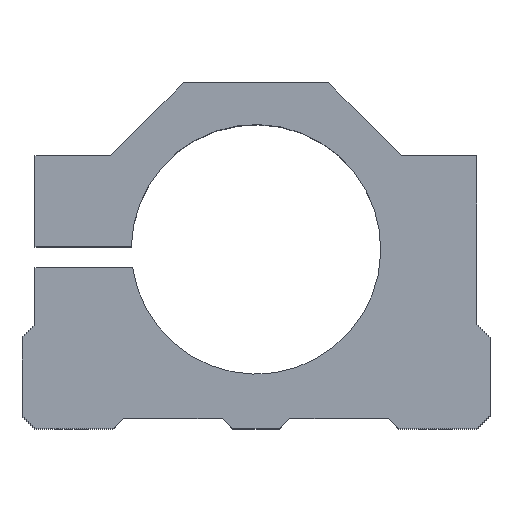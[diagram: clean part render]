
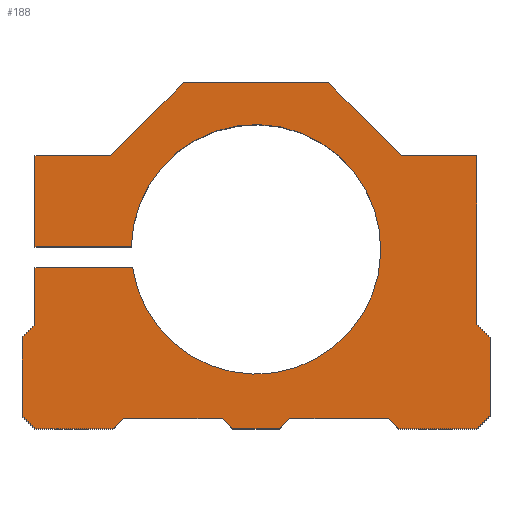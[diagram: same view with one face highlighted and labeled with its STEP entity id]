
A CAD part, top view. The second image highlights one B-rep face of the part: STEP entity #188.
In plain terms, the highlighted planar face has unit normal (0, 0, 1).
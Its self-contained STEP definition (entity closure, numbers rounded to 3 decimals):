
#188=ADVANCED_FACE('',(#572),#574,.T.);
#572=FACE_BOUND('',#573,.T.);
#573=EDGE_LOOP('',(#859,#860,#861,#862,#863,#864,#865,#866,#867,#868,#869,#870,#871,
#872,#873,#874,#875,#876,#877,#878,#879,#880,#881,#882,#883,#884));
#574=PLANE('',#575);
#575=AXIS2_PLACEMENT_3D('',#576,#577,#578);
#576=CARTESIAN_POINT('',(0.,0.,40.));
#577=DIRECTION('',(0.,0.,1.));
#578=DIRECTION('',(1.,0.,0.));
#859=ORIENTED_EDGE('',*,*,#1017,.F.);
#860=ORIENTED_EDGE('',*,*,#976,.T.);
#861=ORIENTED_EDGE('',*,*,#1040,.F.);
#862=ORIENTED_EDGE('',*,*,#1041,.T.);
#863=ORIENTED_EDGE('',*,*,#1042,.F.);
#864=ORIENTED_EDGE('',*,*,#1043,.T.);
#865=ORIENTED_EDGE('',*,*,#1005,.T.);
#866=ORIENTED_EDGE('',*,*,#1044,.T.);
#867=ORIENTED_EDGE('',*,*,#1045,.T.);
#868=ORIENTED_EDGE('',*,*,#1046,.T.);
#869=ORIENTED_EDGE('',*,*,#999,.T.);
#870=ORIENTED_EDGE('',*,*,#1047,.T.);
#871=ORIENTED_EDGE('',*,*,#993,.T.);
#872=ORIENTED_EDGE('',*,*,#1048,.T.);
#873=ORIENTED_EDGE('',*,*,#987,.T.);
#874=ORIENTED_EDGE('',*,*,#1049,.T.);
#875=ORIENTED_EDGE('',*,*,#1050,.F.);
#876=ORIENTED_EDGE('',*,*,#1051,.T.);
#877=ORIENTED_EDGE('',*,*,#1052,.F.);
#878=ORIENTED_EDGE('',*,*,#980,.T.);
#879=ORIENTED_EDGE('',*,*,#1053,.F.);
#880=ORIENTED_EDGE('',*,*,#1054,.T.);
#881=ORIENTED_EDGE('',*,*,#1055,.F.);
#882=ORIENTED_EDGE('',*,*,#1056,.T.);
#883=ORIENTED_EDGE('',*,*,#1057,.F.);
#884=ORIENTED_EDGE('',*,*,#1058,.T.);
#976=EDGE_CURVE('',#1072,#1076,#1078,.T.);
#980=EDGE_CURVE('',#1086,#1084,#1087,.T.);
#987=EDGE_CURVE('',#1100,#1098,#1101,.T.);
#993=EDGE_CURVE('',#1112,#1110,#1113,.T.);
#999=EDGE_CURVE('',#1124,#1122,#1125,.T.);
#1005=EDGE_CURVE('',#1136,#1134,#1137,.T.);
#1017=EDGE_CURVE('',#1072,#1159,#1160,.F.);
#1040=EDGE_CURVE('',#1196,#1076,#1198,.F.);
#1041=EDGE_CURVE('',#1196,#1199,#1200,.T.);
#1042=EDGE_CURVE('',#1201,#1199,#1202,.F.);
#1043=EDGE_CURVE('',#1201,#1136,#1203,.T.);
#1044=EDGE_CURVE('',#1134,#1204,#1205,.T.);
#1045=EDGE_CURVE('',#1204,#1206,#1207,.T.);
#1046=EDGE_CURVE('',#1206,#1124,#1208,.T.);
#1047=EDGE_CURVE('',#1122,#1112,#1209,.T.);
#1048=EDGE_CURVE('',#1110,#1100,#1210,.T.);
#1049=EDGE_CURVE('',#1098,#1211,#1212,.T.);
#1050=EDGE_CURVE('',#1213,#1211,#1214,.F.);
#1051=EDGE_CURVE('',#1213,#1215,#1216,.T.);
#1052=EDGE_CURVE('',#1086,#1215,#1217,.F.);
#1053=EDGE_CURVE('',#1218,#1084,#1219,.F.);
#1054=EDGE_CURVE('',#1218,#1220,#1221,.T.);
#1055=EDGE_CURVE('',#1222,#1220,#1223,.F.);
#1056=EDGE_CURVE('',#1222,#1224,#1225,.T.);
#1057=EDGE_CURVE('',#1226,#1224,#1227,.F.);
#1058=EDGE_CURVE('',#1226,#1159,#1228,.T.);
#1072=VERTEX_POINT('',#1242);
#1076=VERTEX_POINT('',#1250);
#1078=LINE('',#1254,#1255);
#1084=VERTEX_POINT('',#1268);
#1086=VERTEX_POINT('',#1272);
#1087=LINE('',#1273,#1274);
#1098=VERTEX_POINT('',#1298);
#1100=VERTEX_POINT('',#1302);
#1101=LINE('',#1303,#1304);
#1110=VERTEX_POINT('',#1324);
#1112=VERTEX_POINT('',#1328);
#1113=LINE('',#1329,#1330);
#1122=VERTEX_POINT('',#1350);
#1124=VERTEX_POINT('',#1354);
#1125=LINE('',#1355,#1356);
#1134=VERTEX_POINT('',#1376);
#1136=VERTEX_POINT('',#1380);
#1137=LINE('',#1381,#1382);
#1159=VERTEX_POINT('',#1437);
#1160=LINE('',#1438,#1439);
#1196=VERTEX_POINT('',#1519);
#1198=LINE('',#1523,#1524);
#1199=VERTEX_POINT('',#1526);
#1200=LINE('',#1527,#1528);
#1201=VERTEX_POINT('',#1530);
#1202=LINE('',#1531,#1532);
#1203=LINE('',#1534,#1535);
#1204=VERTEX_POINT('',#1537);
#1205=LINE('',#1538,#1539);
#1206=VERTEX_POINT('',#1541);
#1207=LINE('',#1542,#1543);
#1208=LINE('',#1545,#1546);
#1209=LINE('',#1548,#1549);
#1210=CIRCLE('',#1551,24.);
#1211=VERTEX_POINT('',#1555);
#1212=LINE('',#1556,#1557);
#1213=VERTEX_POINT('',#1559);
#1214=LINE('',#1560,#1561);
#1215=VERTEX_POINT('',#1563);
#1216=LINE('',#1564,#1565);
#1217=LINE('',#1567,#1568);
#1218=VERTEX_POINT('',#1570);
#1219=LINE('',#1571,#1572);
#1220=VERTEX_POINT('',#1574);
#1221=LINE('',#1575,#1576);
#1222=VERTEX_POINT('',#1578);
#1223=LINE('',#1579,#1580);
#1224=VERTEX_POINT('',#1582);
#1225=LINE('',#1583,#1584);
#1226=VERTEX_POINT('',#1586);
#1227=LINE('',#1587,#1588);
#1228=LINE('',#1590,#1591);
#1242=CARTESIAN_POINT('',(72.5,0.,40.));
#1250=CARTESIAN_POINT('',(87.5,0.,40.));
#1254=CARTESIAN_POINT('',(72.5,0.,40.));
#1255=VECTOR('',#1256,1.);
#1256=DIRECTION('',(1.,0.,0.));
#1268=CARTESIAN_POINT('',(17.5,0.,40.));
#1272=CARTESIAN_POINT('',(2.5,0.,40.));
#1273=CARTESIAN_POINT('',(2.5,0.,40.));
#1274=VECTOR('',#1275,1.);
#1275=DIRECTION('',(1.,0.,0.));
#1298=CARTESIAN_POINT('',(2.5,31.,40.));
#1302=CARTESIAN_POINT('',(21.257,31.,40.));
#1303=CARTESIAN_POINT('',(21.257,31.,40.));
#1304=VECTOR('',#1305,1.);
#1305=DIRECTION('',(-1.,0.,0.));
#1324=CARTESIAN_POINT('',(21.005,35.,40.));
#1328=CARTESIAN_POINT('',(2.5,35.,40.));
#1329=CARTESIAN_POINT('',(2.5,35.,40.));
#1330=VECTOR('',#1331,1.);
#1331=DIRECTION('',(1.,0.,0.));
#1350=CARTESIAN_POINT('',(2.5,52.5,40.));
#1354=CARTESIAN_POINT('',(17.,52.5,40.));
#1355=CARTESIAN_POINT('',(17.,52.5,40.));
#1356=VECTOR('',#1357,1.);
#1357=DIRECTION('',(-1.,0.,0.));
#1376=CARTESIAN_POINT('',(73.,52.5,40.));
#1380=CARTESIAN_POINT('',(87.5,52.5,40.));
#1381=CARTESIAN_POINT('',(87.5,52.5,40.));
#1382=VECTOR('',#1383,1.);
#1383=DIRECTION('',(-1.,0.,0.));
#1437=CARTESIAN_POINT('',(70.5,2.,40.));
#1438=CARTESIAN_POINT('',(70.5,2.,40.));
#1439=VECTOR('',#1440,1.);
#1440=DIRECTION('',(0.707,-0.707,0.));
#1519=CARTESIAN_POINT('',(90.,2.5,40.));
#1523=CARTESIAN_POINT('',(87.5,0.,40.));
#1524=VECTOR('',#1525,1.);
#1525=DIRECTION('',(0.707,0.707,0.));
#1526=CARTESIAN_POINT('',(90.,17.5,40.));
#1527=CARTESIAN_POINT('',(90.,2.5,40.));
#1528=VECTOR('',#1529,1.);
#1529=DIRECTION('',(0.,1.,0.));
#1530=CARTESIAN_POINT('',(87.5,20.,40.));
#1531=CARTESIAN_POINT('',(90.,17.5,40.));
#1532=VECTOR('',#1533,1.);
#1533=DIRECTION('',(-0.707,0.707,0.));
#1534=CARTESIAN_POINT('',(87.5,20.,40.));
#1535=VECTOR('',#1536,1.);
#1536=DIRECTION('',(0.,1.,0.));
#1537=CARTESIAN_POINT('',(59.,66.5,40.));
#1538=CARTESIAN_POINT('',(73.,52.5,40.));
#1539=VECTOR('',#1540,1.);
#1540=DIRECTION('',(-0.707,0.707,0.));
#1541=CARTESIAN_POINT('',(31.,66.5,40.));
#1542=CARTESIAN_POINT('',(59.,66.5,40.));
#1543=VECTOR('',#1544,1.);
#1544=DIRECTION('',(-1.,0.,0.));
#1545=CARTESIAN_POINT('',(31.,66.5,40.));
#1546=VECTOR('',#1547,1.);
#1547=DIRECTION('',(-0.707,-0.707,0.));
#1548=CARTESIAN_POINT('',(2.5,52.5,40.));
#1549=VECTOR('',#1550,1.);
#1550=DIRECTION('',(0.,-1.,0.));
#1551=AXIS2_PLACEMENT_3D('',#1552,#1553,#1554);
#1552=CARTESIAN_POINT('',(45.,34.5,40.));
#1553=DIRECTION('',(0.,0.,-1.));
#1554=DIRECTION('',(-1.,0.021,0.));
#1555=CARTESIAN_POINT('',(2.5,20.,40.));
#1556=CARTESIAN_POINT('',(2.5,31.,40.));
#1557=VECTOR('',#1558,1.);
#1558=DIRECTION('',(0.,-1.,0.));
#1559=CARTESIAN_POINT('',(0.,17.5,40.));
#1560=CARTESIAN_POINT('',(2.5,20.,40.));
#1561=VECTOR('',#1562,1.);
#1562=DIRECTION('',(-0.707,-0.707,0.));
#1563=CARTESIAN_POINT('',(0.,2.5,40.));
#1564=CARTESIAN_POINT('',(0.,17.5,40.));
#1565=VECTOR('',#1566,1.);
#1566=DIRECTION('',(0.,-1.,0.));
#1567=CARTESIAN_POINT('',(0.,2.5,40.));
#1568=VECTOR('',#1569,1.);
#1569=DIRECTION('',(0.707,-0.707,0.));
#1570=CARTESIAN_POINT('',(19.5,2.,40.));
#1571=CARTESIAN_POINT('',(17.5,0.,40.));
#1572=VECTOR('',#1573,1.);
#1573=DIRECTION('',(0.707,0.707,0.));
#1574=CARTESIAN_POINT('',(38.5,2.,40.));
#1575=CARTESIAN_POINT('',(19.5,2.,40.));
#1576=VECTOR('',#1577,1.);
#1577=DIRECTION('',(1.,0.,0.));
#1578=CARTESIAN_POINT('',(40.5,0.,40.));
#1579=CARTESIAN_POINT('',(38.5,2.,40.));
#1580=VECTOR('',#1581,1.);
#1581=DIRECTION('',(0.707,-0.707,0.));
#1582=CARTESIAN_POINT('',(49.5,0.,40.));
#1583=CARTESIAN_POINT('',(40.5,0.,40.));
#1584=VECTOR('',#1585,1.);
#1585=DIRECTION('',(1.,0.,0.));
#1586=CARTESIAN_POINT('',(51.5,2.,40.));
#1587=CARTESIAN_POINT('',(49.5,0.,40.));
#1588=VECTOR('',#1589,1.);
#1589=DIRECTION('',(0.707,0.707,0.));
#1590=CARTESIAN_POINT('',(51.5,2.,40.));
#1591=VECTOR('',#1592,1.);
#1592=DIRECTION('',(1.,0.,0.));
